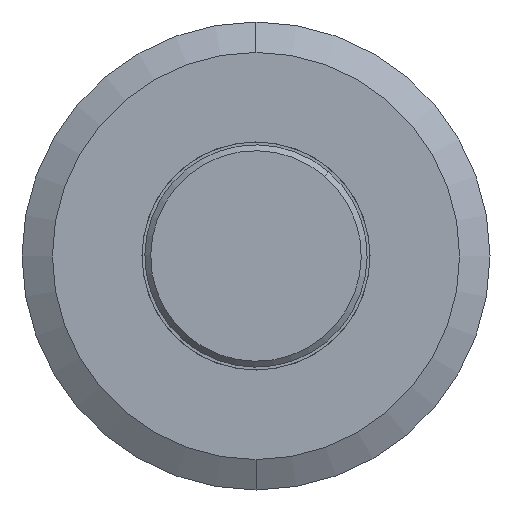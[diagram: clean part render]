
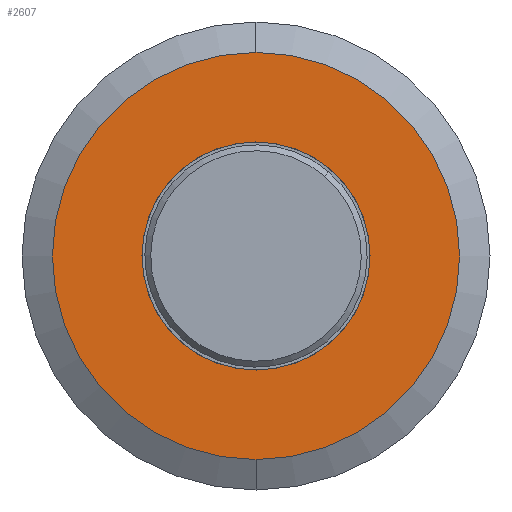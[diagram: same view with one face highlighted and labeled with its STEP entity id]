
A CAD part, left-side view. The second image highlights one B-rep face of the part: STEP entity #2607.
In plain terms, the highlighted planar face has unit normal (-1, 0, 0).
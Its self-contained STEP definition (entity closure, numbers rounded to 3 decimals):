
#198 = CIRCLE ( 'NONE', #1077, 17.402 ) ;
#340 = ORIENTED_EDGE ( 'NONE', *, *, #5990, .F. ) ;
#485 = DIRECTION ( 'NONE',  ( -1., 0., 0. ) ) ;
#580 = DIRECTION ( 'NONE',  ( 0., 0., -1. ) ) ;
#659 = CARTESIAN_POINT ( 'NONE',  ( -48., 0., -17.402 ) ) ;
#1077 = AXIS2_PLACEMENT_3D ( 'NONE', #7691, #8503, #8430 ) ;
#1190 = AXIS2_PLACEMENT_3D ( 'NONE', #5128, #485, #6664 ) ;
#1609 = AXIS2_PLACEMENT_3D ( 'NONE', #2148, #7438, #580 ) ;
#1955 = EDGE_LOOP ( 'NONE', ( #340, #2395 ) ) ;
#2148 = CARTESIAN_POINT ( 'NONE',  ( -48., 0., 0. ) ) ;
#2395 = ORIENTED_EDGE ( 'NONE', *, *, #2713, .F. ) ;
#2607 = ADVANCED_FACE ( 'NONE', ( #7253, #6511 ), #9027, .T. ) ;
#2713 = EDGE_CURVE ( 'NONE', #8262, #7644, #3848, .T. ) ;
#3163 = EDGE_CURVE ( 'NONE', #8085, #9495, #10037, .T. ) ;
#3848 = CIRCLE ( 'NONE', #7493, 9.75 ) ;
#4317 = CARTESIAN_POINT ( 'NONE',  ( -48., 0., -9.75 ) ) ;
#4322 = AXIS2_PLACEMENT_3D ( 'NONE', #9827, #8226, #6676 ) ;
#5128 = CARTESIAN_POINT ( 'NONE',  ( -48., -9.75, 0. ) ) ;
#5321 = EDGE_LOOP ( 'NONE', ( #6770, #8055 ) ) ;
#5990 = EDGE_CURVE ( 'NONE', #7644, #8262, #6939, .T. ) ;
#6029 = DIRECTION ( 'NONE',  ( 0., 0., -1. ) ) ;
#6511 = FACE_BOUND ( 'NONE', #1955, .T. ) ;
#6664 = DIRECTION ( 'NONE',  ( 0., 0., -1. ) ) ;
#6676 = DIRECTION ( 'NONE',  ( 0., 0., -1. ) ) ;
#6770 = ORIENTED_EDGE ( 'NONE', *, *, #9267, .T. ) ;
#6771 = DIRECTION ( 'NONE',  ( -1., 0., 0. ) ) ;
#6939 = CIRCLE ( 'NONE', #4322, 9.75 ) ;
#7253 = FACE_OUTER_BOUND ( 'NONE', #5321, .T. ) ;
#7438 = DIRECTION ( 'NONE',  ( -1., 0., 0. ) ) ;
#7493 = AXIS2_PLACEMENT_3D ( 'NONE', #7613, #6771, #6029 ) ;
#7613 = CARTESIAN_POINT ( 'NONE',  ( -48., 0., 0. ) ) ;
#7644 = VERTEX_POINT ( 'NONE', #4317 ) ;
#7691 = CARTESIAN_POINT ( 'NONE',  ( -48., 0., 0. ) ) ;
#8055 = ORIENTED_EDGE ( 'NONE', *, *, #3163, .T. ) ;
#8067 = CARTESIAN_POINT ( 'NONE',  ( -48., 0., 17.402 ) ) ;
#8085 = VERTEX_POINT ( 'NONE', #659 ) ;
#8226 = DIRECTION ( 'NONE',  ( -1., 0., 0. ) ) ;
#8262 = VERTEX_POINT ( 'NONE', #9714 ) ;
#8430 = DIRECTION ( 'NONE',  ( 0., 0., -1. ) ) ;
#8503 = DIRECTION ( 'NONE',  ( -1., 0., 0. ) ) ;
#9027 = PLANE ( 'NONE',  #1190 ) ;
#9267 = EDGE_CURVE ( 'NONE', #9495, #8085, #198, .T. ) ;
#9495 = VERTEX_POINT ( 'NONE', #8067 ) ;
#9714 = CARTESIAN_POINT ( 'NONE',  ( -48., 0., 9.75 ) ) ;
#9827 = CARTESIAN_POINT ( 'NONE',  ( -48., 0., 0. ) ) ;
#10037 = CIRCLE ( 'NONE', #1609, 17.402 ) ;
